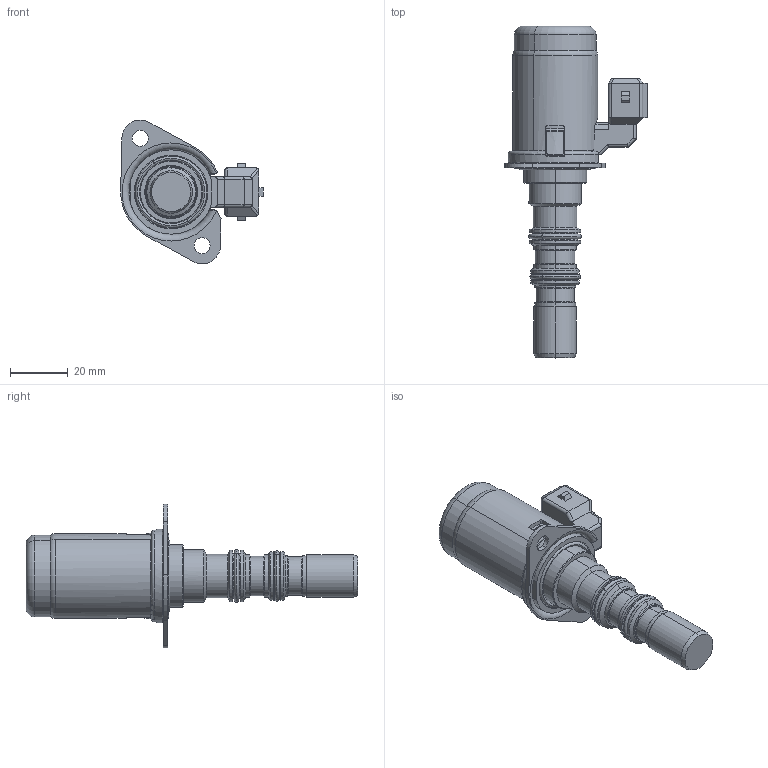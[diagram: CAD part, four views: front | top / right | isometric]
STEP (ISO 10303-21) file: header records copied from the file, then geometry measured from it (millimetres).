
FILE_DESCRIPTION((''),'2;1');
FILE_NAME('PRT0008','2009-03-20T',('jcs'),(''),'PRO/ENGINEER BY PARAMETRIC TECHNOLOGY CORPORATION, 2008010','PRO/ENGINEER BY PARAMETRIC TECHNOLOGY CORPORATION, 2008010','');
FILE_SCHEMA(('CONFIG_CONTROL_DESIGN'));
Length unit declared in the file: inch
Products named in the file (1): PRT0008
Bounding box: 49.53 x 115.24 x 49.94 mm (x, y, z)
Volume: 50925.7 mm3; surface area: 14722.6 mm2
Topology: 2 solids, 2 shells, 368 faces, 1024 edges, 663 vertices
Faces by surface type: plane 141, cylinder 123, torus 64, cone 32, bspline 8
Entity records: 12667 total; most frequent: CARTESIAN_POINT 3239, ORIENTED_EDGE 2048, DIRECTION 1929, EDGE_CURVE 1024, AXIS2_PLACEMENT_3D 749, VERTEX_POINT 663, VECTOR 431, LINE 431
